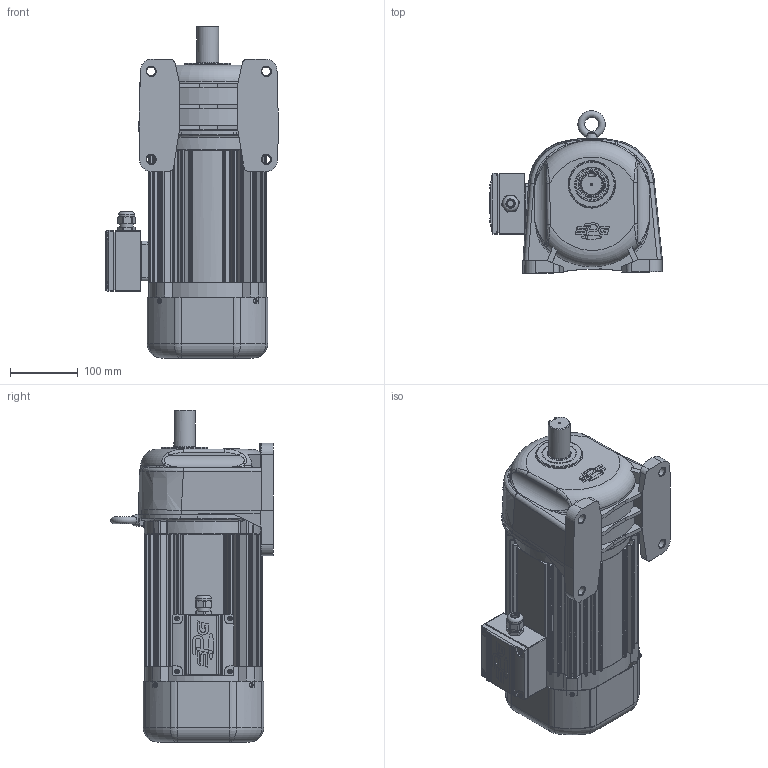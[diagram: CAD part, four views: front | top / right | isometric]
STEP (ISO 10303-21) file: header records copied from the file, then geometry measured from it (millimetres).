
FILE_DESCRIPTION(/* description */ (''),/* implementation_level */ '2;1');
FILE_NAME(/* name */ 'Z:\작업\이재복 기사님\진행중\도면작성\201216 - 중국 송부용 3D\PAL32-15-PC150R5L\PAL32-15-PC150R5L.stp',/* time_stamp */ '2021-01-06T16:24:20+09:00',/* author */ ('pch0107'),/* organization */ (''),/* preprocessor_version */ 'ST-DEVELOPER v17',/* originating_system */ 'Autodesk Inventor 2019',/* authorisation */ '');
FILE_SCHEMA (('AUTOMOTIVE_DESIGN { 1 0 10303 214 3 1 1 }'));
Length unit declared in the file: millimetre
Products named in the file (1): 부품123
Bounding box: 255.37 x 240.08 x 490.3 mm (x, y, z)
Volume: 4141348.8 mm3; surface area: 959053.1 mm2
Topology: 1 solids, 24 shells, 2743 faces, 7189 edges, 4367 vertices
Faces by surface type: plane 912, cylinder 746, bspline 571, torus 223, cone 177, sphere 114
Full cylindrical faces by diameter (mm): 2 x2, 3.25 x1, 3.6 x4, 4 x22, 4.917 x4, 5 x19, 6 x5, 6.5 x5, 6.647 x2, 7 x12, 8 x1, 10 x1, 12.5 x1, 13 x4, 15 x1, 20 x2, 21 x1, 21.8 x1, 22 x2, 23.6 x1, 25 x1, 31.8 x2, 32 x2, 34.8 x1, 35 x3, 36 x1, 39.2 x1, 40 x1, 42 x1, 46.5 x1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
Entity records: 106565 total; most frequent: CARTESIAN_POINT 42094, ORIENTED_EDGE 14000, DIRECTION 12695, EDGE_CURVE 7000, AXIS2_PLACEMENT_3D 5131, VERTEX_POINT 4367, EDGE_LOOP 2931, CIRCLE 2906
